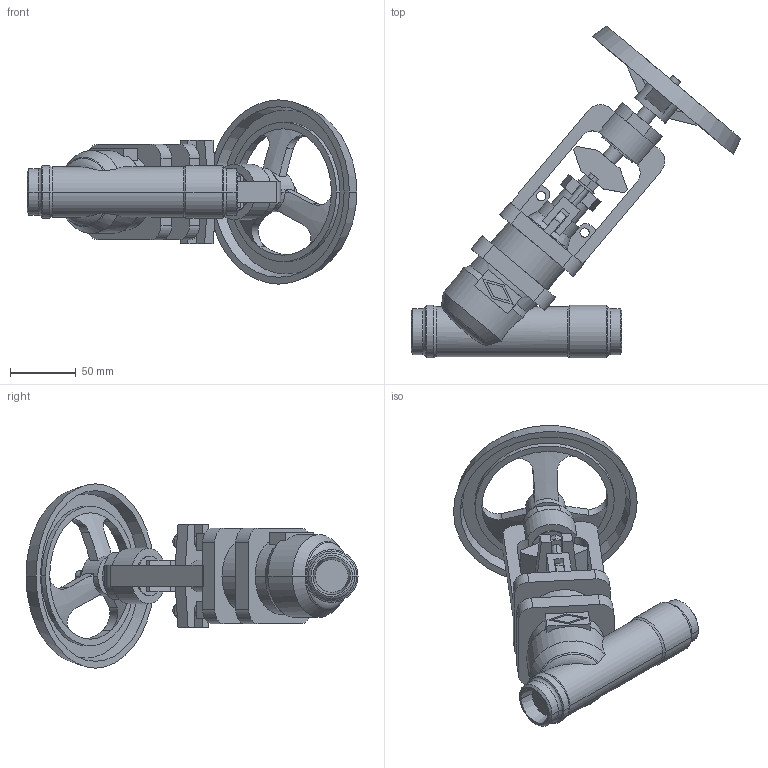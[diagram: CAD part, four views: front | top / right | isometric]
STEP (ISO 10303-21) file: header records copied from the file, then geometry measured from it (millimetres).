
FILE_DESCRIPTION(('OneSpaceDesigner STEP Export'),'2;1');
FILE_NAME('c000004359.stp','2010-05-11T 8:13:26',(''),(''),'OneSpace Designer STEP processor for AP214 (Solid Model)','OneSpace Modeling 15.50B 03-Nov-2007 (C) CoCreate Software GmbH','');
FILE_SCHEMA(('AUTOMOTIVE_DESIGN { 1 0 10303 214 1 1 1 1 }'));
Length unit declared in the file: millimetre
Products named in the file (1): 1
Bounding box: 250.42 x 252.2 x 140 mm (x, y, z)
Volume: 696617.8 mm3; surface area: 124795.8 mm2
Topology: 1 solids, 1 shells, 286 faces, 744 edges, 481 vertices
Faces by surface type: plane 144, cylinder 87, cone 39, torus 16
Entity records: 10996 total; most frequent: CARTESIAN_POINT 2065, ORIENTED_EDGE 1488, DIRECTION 1236, EDGE_CURVE 744, VERTEX_POINT 481, VECTOR 432, LINE 432, AXIS2_PLACEMENT_3D 402
